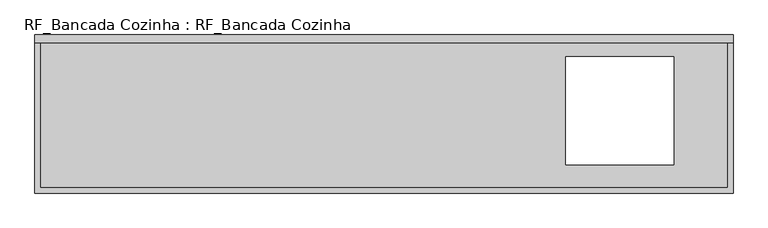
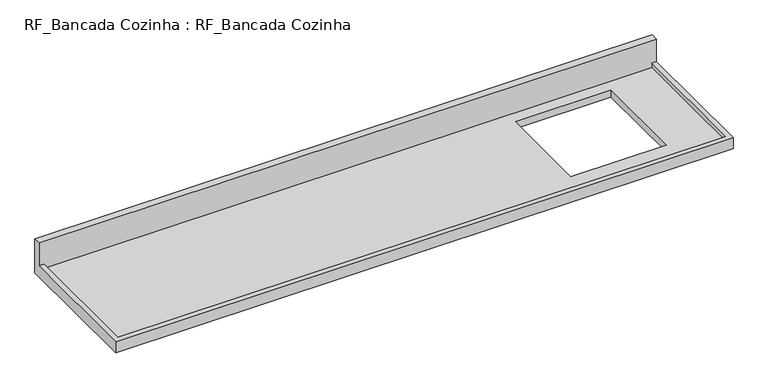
"""IFC4 building model written with IfcOpenShell, lengths in millimetres: proxy geometry, RF_Bancada Cozinha : RF_Bancada Cozinha."""

from ifc_helpers import new_model, si_unit, origin, place, context, project, spatial, faceted_brep, source, transform, mapped, element, save


def rf_bancada_cozinha_rf_bancada_cozinha_798ceddf(model_context):
    return source(origin(), model_context, "Body", "Brep", [
        faceted_brep([(2588.9994983, 0.0, 150.0), (2588.9994983, -30.0, 150.0), (2588.9994983, -30.0, 50.0), (2588.9994983, -586.2819009, 50.0), (2588.9994983, -586.2819009, 0.0), (2588.9994983, 0.0, 0.0), (0.0, 0.0, 150.0), (0.0, 0.0, 0.0), (0.0, -586.2819009, 0.0), (0.0, -586.2819009, 50.0), (0.0, -30.0, 50.0), (0.0, -30.0, 150.0), (20.0, -30.0, 50.0), (20.0, -30.0, 30.0), (2568.9994983, -30.0, 30.0), (2568.9994983, -30.0, 50.0), (2568.9994983, -566.2819009, 50.0), (20.0, -566.2819009, 50.0), (1968.9994983, -80.5819009, 0.0), (1968.9994983, -480.5819009, 0.0), (2368.9994983, -480.5819009, 0.0), (2368.9994983, -80.5819009, 0.0), (20.0, -566.2819009, 30.0), (2568.9994983, -566.2819009, 30.0), (1968.9994983, -480.5819009, 30.0), (1968.9994983, -80.5819009, 30.0), (2368.9994983, -80.5819009, 30.0), (2368.9994983, -480.5819009, 30.0)], [[[0, 1, 2, 3, 4, 5]], [[6, 7, 8, 9, 10, 11]], [[1, 0, 6, 11]], [[2, 1, 11, 10, 12, 13, 14, 15]], [[3, 2, 15, 16, 17, 12, 10, 9]], [[4, 3, 9, 8]], [[5, 4, 8, 7], [18, 19, 20, 21]], [[0, 5, 7, 6]], [[14, 13, 22, 23], [24, 25, 26, 27]], [[14, 23, 16, 15]], [[23, 22, 17, 16]], [[22, 13, 12, 17]], [[24, 19, 18, 25]], [[25, 18, 21, 26]], [[26, 21, 20, 27]], [[19, 24, 27, 20]]]),
    ])


if __name__ == "__main__":
    model = new_model("IFC4")
    model_context = context("Model", 3, world=origin())
    ifc_project = project(units=[si_unit("LENGTHUNIT", "METRE", prefix="MILLI")], contexts=[model_context])
    site = spatial("IfcSite", under=ifc_project)
    building = spatial("IfcBuilding", under=site)
    placement = place(None, origin())
    rf_bancada_cozinha_rf_bancada_cozinha_shape = rf_bancada_cozinha_rf_bancada_cozinha_798ceddf(model_context)
    element("IfcBuildingElementProxy", 1, Name="RF_Bancada Cozinha : RF_Bancada Cozinha", ObjectType="RF_Bancada Cozinha : RF_Bancada Cozinha", at=placement, inside=building, context=model_context, shape_type="MappedRepresentation", body=[
        mapped(rf_bancada_cozinha_rf_bancada_cozinha_shape, transform((0.0, 0.0, 0.0), x_axis=(1.0, 0.0, 0.0), y_axis=(0.0, 1.0, 0.0), z_axis=(0.0, 0.0, 1.0))),
    ])
    save(model, "model.ifc")
